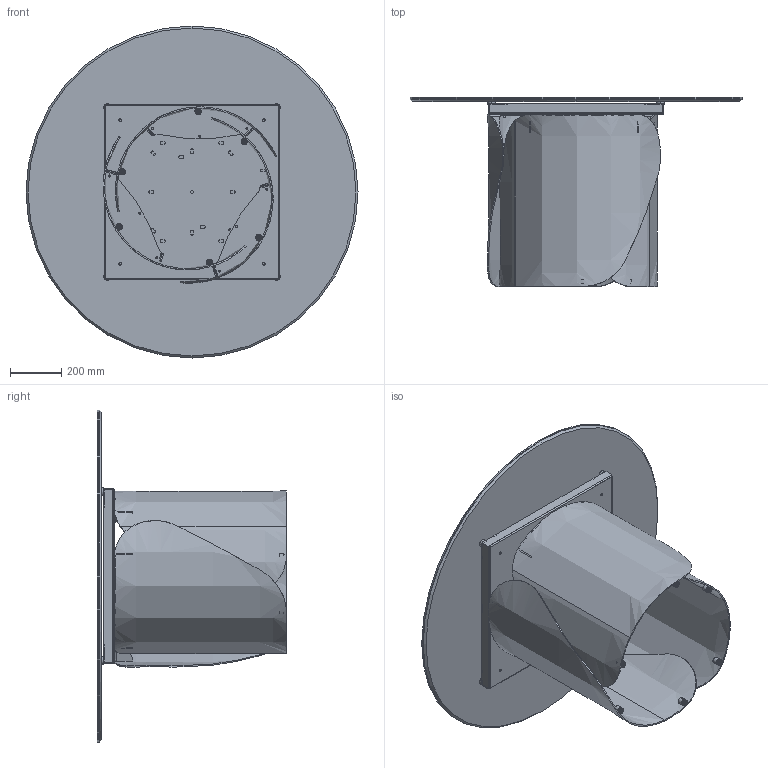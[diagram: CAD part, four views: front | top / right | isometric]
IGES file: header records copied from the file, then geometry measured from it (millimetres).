
Start section: SolidWorks IGES file using analytic representation for surfaces
Global section: file name: Y:\eforma\TECNICO\SOLIDWORKS\E-FORMA\1-TAVOLI\ONDA\02 parts\ON05C.IGS; native system: SolidWorks 2022; preprocessor: SolidWorks 2022; author: eforma.tech; date: 240806.152731; units: millimetre
Bounding box: 1300 x 742 x 1300 mm (x, y, z)
Volume: 31883624.9 mm3; surface area: 9995520.4 mm2
Topology: 63 solids, 63 shells, 1551 faces, 3661 edges, 2272 vertices
Faces by surface type: revolution 863, plane 628, bspline 60
